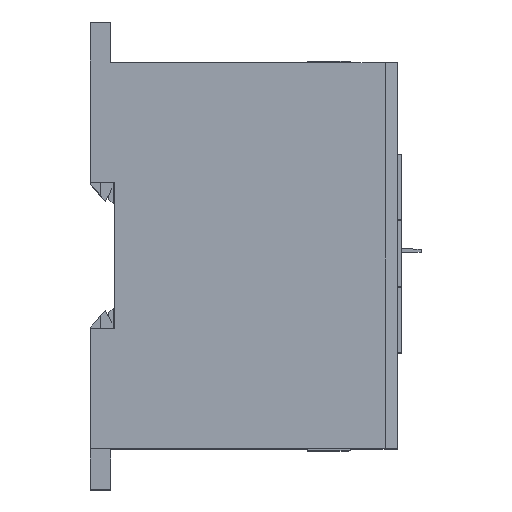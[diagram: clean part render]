
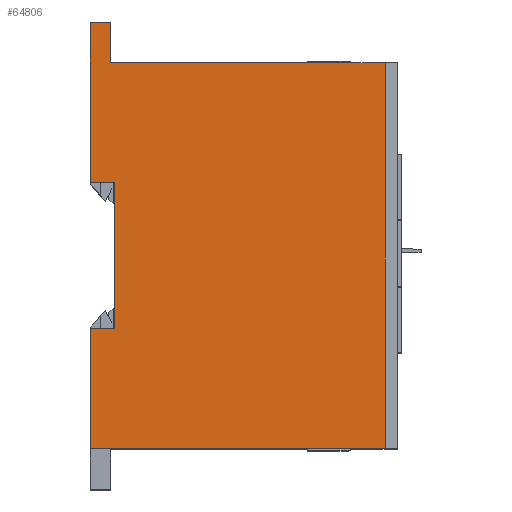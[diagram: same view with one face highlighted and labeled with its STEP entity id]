
A CAD part, top view. The second image highlights one B-rep face of the part: STEP entity #64806.
In plain terms, the highlighted planar face has unit normal (0, 0, 1).
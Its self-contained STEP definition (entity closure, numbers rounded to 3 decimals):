
#923 = CARTESIAN_POINT ( 'NONE',  ( 0., 0., 0. ) ) ;
#2211 = DIRECTION ( 'NONE',  ( 0., -1., 0. ) ) ;
#2718 = LINE ( 'NONE', #140998, #63681 ) ;
#4031 = CARTESIAN_POINT ( 'NONE',  ( 75., 0., 0. ) ) ;
#8515 = ORIENTED_EDGE ( 'NONE', *, *, #26983, .T. ) ;
#8799 = ORIENTED_EDGE ( 'NONE', *, *, #26046, .T. ) ;
#13036 = CARTESIAN_POINT ( 'NONE',  ( 6., 64.8, 0. ) ) ;
#14112 = ORIENTED_EDGE ( 'NONE', *, *, #36431, .T. ) ;
#16511 = DIRECTION ( 'NONE',  ( -1., 0., 0. ) ) ;
#19435 = CARTESIAN_POINT ( 'NONE',  ( 72., 94., 0. ) ) ;
#20496 = LINE ( 'NONE', #42169, #81531 ) ;
#20741 = VERTEX_POINT ( 'NONE', #98923 ) ;
#25094 = VERTEX_POINT ( 'NONE', #923 ) ;
#26046 = EDGE_CURVE ( 'NONE', #45183, #25094, #52705, .T. ) ;
#26983 = EDGE_CURVE ( 'NONE', #95446, #81822, #93045, .T. ) ;
#27120 = DIRECTION ( 'NONE',  ( -1., 0., 0. ) ) ;
#30210 = LINE ( 'NONE', #30887, #148531 ) ;
#30887 = CARTESIAN_POINT ( 'NONE',  ( 6., 29.3, 0. ) ) ;
#33569 = CARTESIAN_POINT ( 'NONE',  ( 72., 94., 0. ) ) ;
#36431 = EDGE_CURVE ( 'NONE', #20741, #45183, #2718, .T. ) ;
#36954 = CARTESIAN_POINT ( 'NONE',  ( 5., 94., 0. ) ) ;
#39761 = EDGE_CURVE ( 'NONE', #132846, #41614, #65064, .T. ) ;
#39797 = DIRECTION ( 'NONE',  ( -1., 0., 0. ) ) ;
#41614 = VERTEX_POINT ( 'NONE', #19435 ) ;
#42169 = CARTESIAN_POINT ( 'NONE',  ( 0., 0., 0. ) ) ;
#45183 = VERTEX_POINT ( 'NONE', #77884 ) ;
#46177 = VERTEX_POINT ( 'NONE', #134171 ) ;
#49137 = VECTOR ( 'NONE', #66825, 1000. ) ;
#49212 = DIRECTION ( 'NONE',  ( 0., 0., -1. ) ) ;
#51614 = EDGE_CURVE ( 'NONE', #80245, #20741, #30210, .T. ) ;
#51710 = ORIENTED_EDGE ( 'NONE', *, *, #126544, .T. ) ;
#52705 = LINE ( 'NONE', #123914, #49137 ) ;
#53001 = EDGE_CURVE ( 'NONE', #41614, #95446, #113618, .T. ) ;
#56216 = VERTEX_POINT ( 'NONE', #146472 ) ;
#62487 = VECTOR ( 'NONE', #117078, 1000. ) ;
#63121 = CARTESIAN_POINT ( 'NONE',  ( 0., 103.8, 0. ) ) ;
#63681 = VECTOR ( 'NONE', #83925, 1000. ) ;
#64806 = ADVANCED_FACE ( 'NONE', ( #69284 ), #72754, .F. ) ;
#65064 = LINE ( 'NONE', #33569, #95647 ) ;
#66825 = DIRECTION ( 'NONE',  ( 0., -1., 0. ) ) ;
#69284 = FACE_OUTER_BOUND ( 'NONE', #112486, .T. ) ;
#71299 = ORIENTED_EDGE ( 'NONE', *, *, #39761, .T. ) ;
#72754 = PLANE ( 'NONE',  #144823 ) ;
#73624 = DIRECTION ( 'NONE',  ( 1., 0., 0. ) ) ;
#76856 = ORIENTED_EDGE ( 'NONE', *, *, #133680, .T. ) ;
#77884 = CARTESIAN_POINT ( 'NONE',  ( 0., 29.3, 0. ) ) ;
#79708 = VECTOR ( 'NONE', #73624, 1000. ) ;
#80245 = VERTEX_POINT ( 'NONE', #13036 ) ;
#81531 = VECTOR ( 'NONE', #122266, 1000. ) ;
#81822 = VERTEX_POINT ( 'NONE', #111032 ) ;
#82259 = LINE ( 'NONE', #63121, #109169 ) ;
#83925 = DIRECTION ( 'NONE',  ( -1., 0., 0. ) ) ;
#92861 = ORIENTED_EDGE ( 'NONE', *, *, #53001, .T. ) ;
#93045 = LINE ( 'NONE', #36954, #62487 ) ;
#95446 = VERTEX_POINT ( 'NONE', #132337 ) ;
#95484 = EDGE_CURVE ( 'NONE', #25094, #132846, #20496, .T. ) ;
#95647 = VECTOR ( 'NONE', #102273, 1000. ) ;
#96326 = ORIENTED_EDGE ( 'NONE', *, *, #95484, .T. ) ;
#98470 = ORIENTED_EDGE ( 'NONE', *, *, #51614, .T. ) ;
#98923 = CARTESIAN_POINT ( 'NONE',  ( 6., 29.3, 0. ) ) ;
#100082 = DIRECTION ( 'NONE',  ( 0., -1., 0. ) ) ;
#100474 = CARTESIAN_POINT ( 'NONE',  ( 72., 0., 0. ) ) ;
#102273 = DIRECTION ( 'NONE',  ( 0., 1., 0. ) ) ;
#104544 = CARTESIAN_POINT ( 'NONE',  ( 0., 64.8, 0. ) ) ;
#107725 = CARTESIAN_POINT ( 'NONE',  ( 6., 64.8, 0. ) ) ;
#109169 = VECTOR ( 'NONE', #16511, 1000. ) ;
#110204 = LINE ( 'NONE', #107725, #79708 ) ;
#110893 = LINE ( 'NONE', #104544, #141332 ) ;
#111032 = CARTESIAN_POINT ( 'NONE',  ( 5., 103.8, 0. ) ) ;
#112486 = EDGE_LOOP ( 'NONE', ( #96326, #71299, #92861, #8515, #117991, #51710, #76856, #98470, #14112, #8799 ) ) ;
#113618 = LINE ( 'NONE', #119917, #144047 ) ;
#117078 = DIRECTION ( 'NONE',  ( 0., 1., 0. ) ) ;
#117991 = ORIENTED_EDGE ( 'NONE', *, *, #127276, .T. ) ;
#119917 = CARTESIAN_POINT ( 'NONE',  ( 0., 94., 0. ) ) ;
#122266 = DIRECTION ( 'NONE',  ( 1., 0., 0. ) ) ;
#123914 = CARTESIAN_POINT ( 'NONE',  ( 0., 0., 0. ) ) ;
#126544 = EDGE_CURVE ( 'NONE', #56216, #46177, #110893, .T. ) ;
#127276 = EDGE_CURVE ( 'NONE', #81822, #56216, #82259, .T. ) ;
#132337 = CARTESIAN_POINT ( 'NONE',  ( 5., 94., 0. ) ) ;
#132846 = VERTEX_POINT ( 'NONE', #100474 ) ;
#133680 = EDGE_CURVE ( 'NONE', #46177, #80245, #110204, .T. ) ;
#134171 = CARTESIAN_POINT ( 'NONE',  ( 0., 64.8, 0. ) ) ;
#140998 = CARTESIAN_POINT ( 'NONE',  ( 0., 29.3, 0. ) ) ;
#141332 = VECTOR ( 'NONE', #2211, 1000. ) ;
#144047 = VECTOR ( 'NONE', #39797, 1000. ) ;
#144823 = AXIS2_PLACEMENT_3D ( 'NONE', #4031, #49212, #27120 ) ;
#146472 = CARTESIAN_POINT ( 'NONE',  ( 0., 103.8, 0. ) ) ;
#148531 = VECTOR ( 'NONE', #100082, 1000. ) ;
